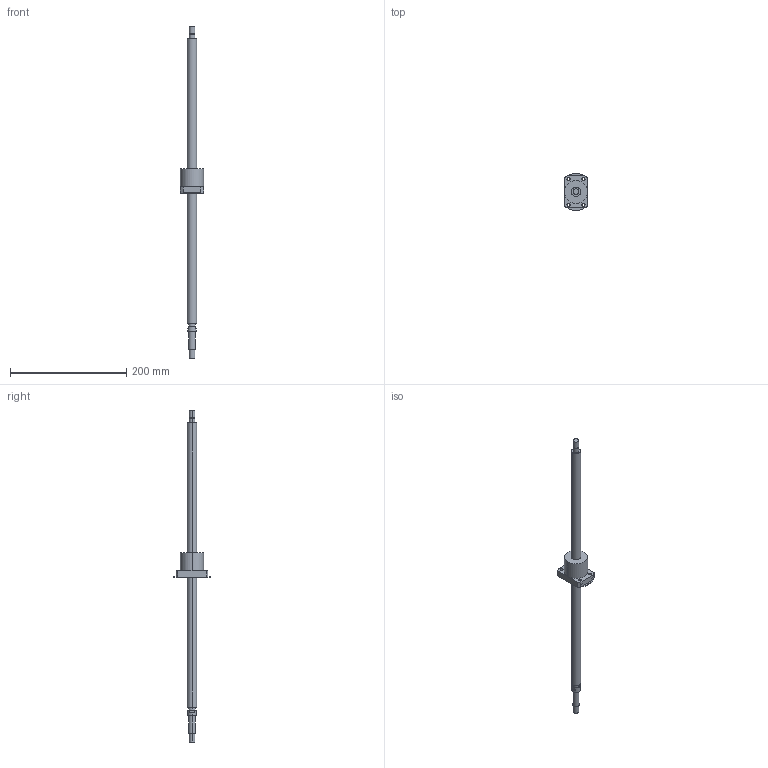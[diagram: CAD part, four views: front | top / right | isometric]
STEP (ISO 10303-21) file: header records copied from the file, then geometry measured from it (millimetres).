
FILE_DESCRIPTION((''),'2;1');
FILE_NAME('R16-5B1-FSW-489-571','2008-03-28T',('mahdi'),(''),'PRO/ENGINEER BY PARAMETRIC TECHNOLOGY CORPORATION, 2005070','PRO/ENGINEER BY PARAMETRIC TECHNOLOGY CORPORATION, 2005070','');
FILE_SCHEMA(('CONFIG_CONTROL_DESIGN'));
Length unit declared in the file: millimetre
Products named in the file (1): R16-5B1-FSW-489-571
Bounding box: 40 x 63 x 571 mm (x, y, z)
Volume: 159344.7 mm3; surface area: 36969.6 mm2
Topology: 1 solids, 1 shells, 66 faces, 148 edges, 96 vertices
Faces by surface type: cylinder 38, plane 28
Entity records: 1926 total; most frequent: DIRECTION 364, CARTESIAN_POINT 310, ORIENTED_EDGE 296, AXIS2_PLACEMENT_3D 150, EDGE_CURVE 148, VERTEX_POINT 96, EDGE_LOOP 86, CIRCLE 84
